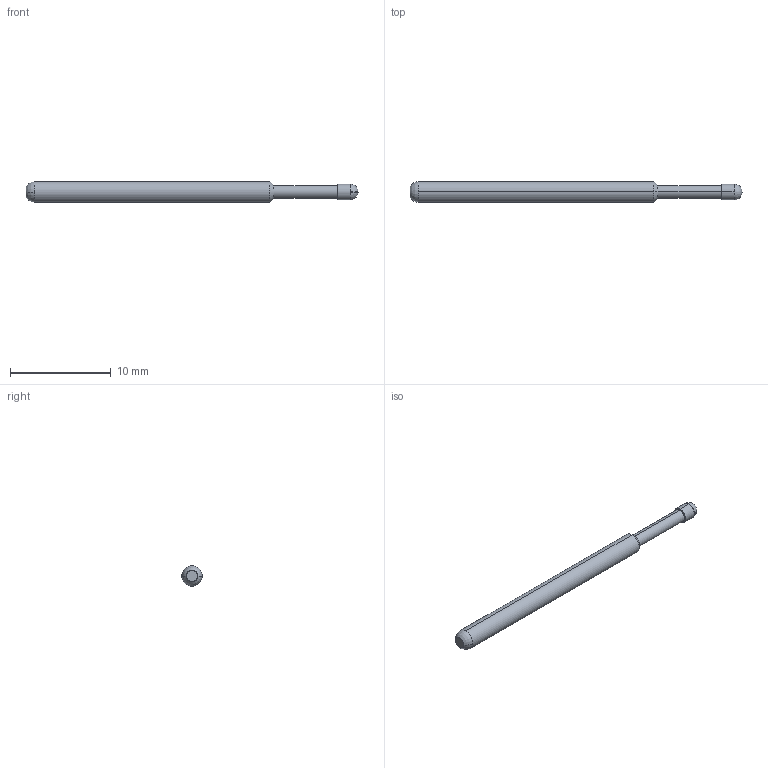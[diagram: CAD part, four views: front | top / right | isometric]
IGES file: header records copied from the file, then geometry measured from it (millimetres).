
Start section: SolidWorks IGES file using analytic representation for surfaces
Global section: file name: C:\Documents and Settings\mrumschlag\Desktop\changes\new\test\EPA-3D.IGS; native system: SolidWorks 2008; preprocessor: SolidWorks 2008; author: mrumschlag; date: 110414.162807; units: inch
Bounding box: 33.02 x 2.03 x 2.03 mm (x, y, z)
Surface area: 194.7 mm2 (no closed solid volume)
Topology: 0 solids, 0 shells, 14 faces, 104 edges, 102 vertices
Faces by surface type: revolution 12, bspline 2
